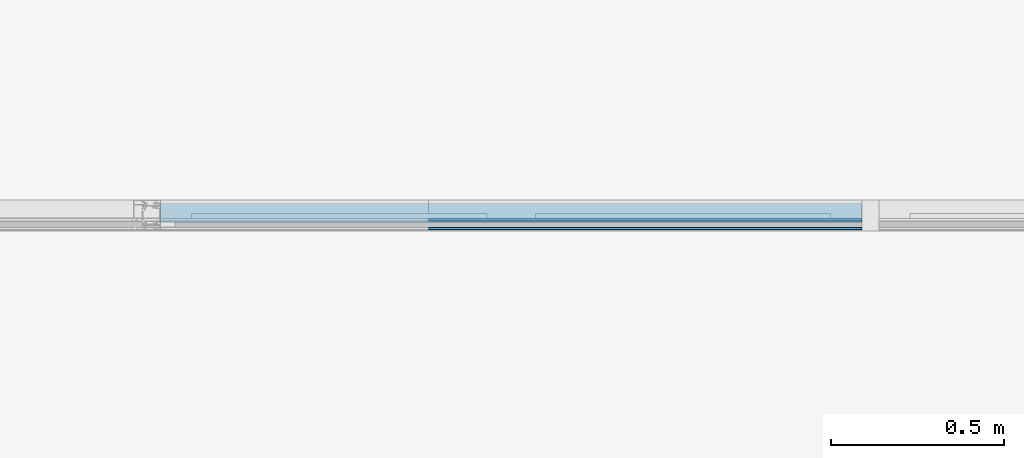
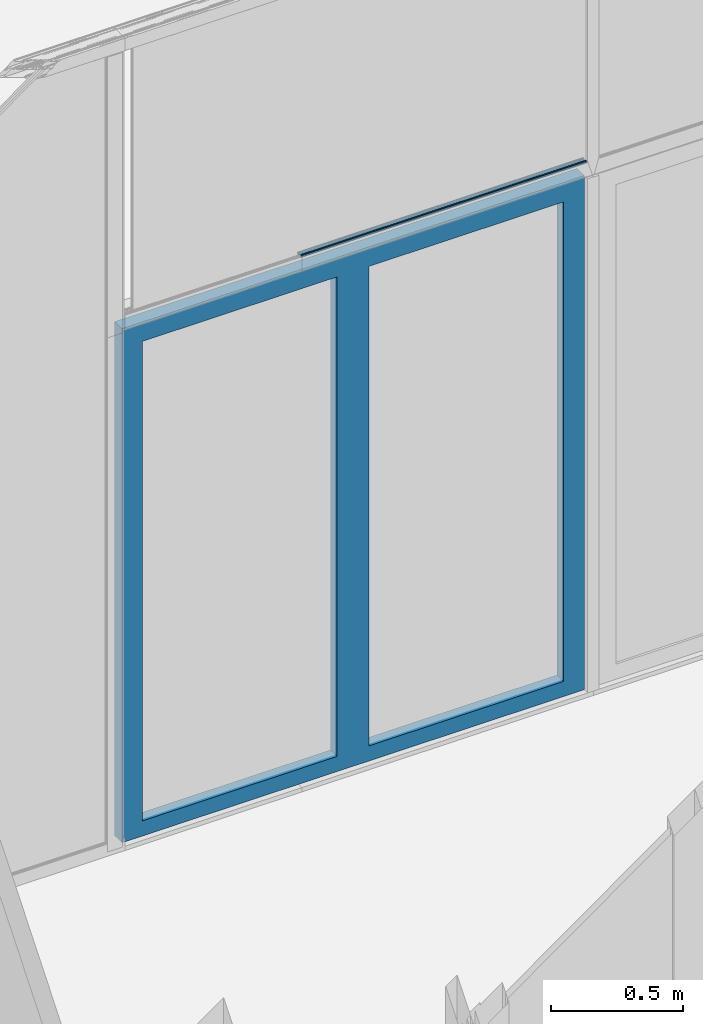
# One storey, part 20 of 69: 2 building element parts, 3 elements without a shape of their own.
"""IFC2X3 building model written with IfcOpenShell, lengths in millimetres."""

from ifc_helpers import new_model, entity, si_unit, converted_unit, derived_unit, money_unit, direction, frame, origin_with_axes, place, context, subcontext, project, spatial, faceted_brep, material, type_object, element, aggregate, save


model = new_model("IFC2X3")

# Units and contexts
model_context = context("Model", 3, precision=0.01, world=origin_with_axes(), true_north=direction((0.0, 1.0)))
body_context = subcontext(model_context, "Body", "Model", "MODEL_VIEW")
ifc_project = project(units=[si_unit("LENGTHUNIT", "METRE", prefix="MILLI"), si_unit("AREAUNIT", "SQUARE_METRE"), si_unit("VOLUMEUNIT", "CUBIC_METRE"), converted_unit("PLANEANGLEUNIT", "DEGREE", entity("IfcPlaneAngleMeasure", 0.0174532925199), si_unit("PLANEANGLEUNIT", "RADIAN"), dimensions=[0, 0, 0, 0, 0, 0, 0]), si_unit("SOLIDANGLEUNIT", "STERADIAN"), money_unit("EUR"), converted_unit("TIMEUNIT", "Year", entity("IfcTimeMeasure", 31556926.0), si_unit("TIMEUNIT", "SECOND"), dimensions=[0, 0, 1, 0, 0, 0, 0]), si_unit("MASSUNIT", "GRAM", prefix="KILO"), si_unit("THERMODYNAMICTEMPERATUREUNIT", "DEGREE_CELSIUS"), si_unit("LUMINOUSINTENSITYUNIT", "LUMEN"), si_unit("ENERGYUNIT", "JOULE", prefix="MEGA"), derived_unit("THERMALCONDUCTANCEUNIT", [(si_unit("POWERUNIT", "WATT"), 1), (si_unit("LENGTHUNIT", "METRE"), -1), (si_unit("THERMODYNAMICTEMPERATUREUNIT", "KELVIN"), -1)]), derived_unit("SPECIFICHEATCAPACITYUNIT", [(si_unit("ENERGYUNIT", "JOULE"), 1), (si_unit("MASSUNIT", "GRAM", prefix="KILO"), -1), (si_unit("THERMODYNAMICTEMPERATUREUNIT", "KELVIN"), -1)]), derived_unit("MASSDENSITYUNIT", [(si_unit("MASSUNIT", "GRAM", prefix="KILO"), 1), (si_unit("VOLUMEUNIT", "CUBIC_METRE"), -1)])], contexts=[model_context])

# Site, building, storey
site_placement = place(None, origin_with_axes())
site = spatial("IfcSite", under=ifc_project, at=site_placement, Name="Puškini 31, Narva", CompositionType="ELEMENT")
building_placement = place(site_placement, origin_with_axes())
building = spatial("IfcBuilding", under=site, at=building_placement, Name="Narva Riigigümnaasium", CompositionType="ELEMENT")
storey_placement = place(building_placement, origin_with_axes())
storey = spatial("IfcBuildingStorey", under=building, at=storey_placement, Name="1.korrus 0.00", CompositionType="ELEMENT", Elevation=0.0)

# Curtain wall, door, building element parts, member
curtain_wall_type = type_object("IfcCurtainWallType", Name="Curtain Wall Type", PredefinedType="NOTDEFINED")
curtain_wall_placement = place(storey_placement, frame((18229.9603698, 152620.000001, -0.397158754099), z_axis=(0.0, 0.0, 1.0), x_axis=(1.0, 0.0, 0.0)))
curtain_wall = element("IfcCurtainWall", 1, at=curtain_wall_placement, inside=storey, type_object=curtain_wall_type, Name="G-KLF-01-1")
door_style = type_object("IfcDoorStyle", Name="1251 x 2339 x 20", ConstructionType="NOTDEFINED", OperationType="NOTDEFINED", ParameterTakesPrecedence=False, Sizeable=False)
door_placement = place(curtain_wall_placement, frame((8.86529960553e-07, 0.0, 1200.00001719), z_axis=(0.0, 0.0, 1.0), x_axis=(1.0, 0.0, 0.0)))
door = element("IfcDoor", 2, at=door_placement, type_object=door_style, Name="G-KLF-01-1-U1", ObjectType="DOOR")
ifc_material_1 = material(Name="ET-04_Alumiinium")
building_element_part_1_placement = place(door_placement, origin_with_axes())
building_element_part_1 = element("IfcBuildingElementPart", 3, at=building_element_part_1_placement, material=ifc_material_1, Name="ET-04_Alumiinium", context=body_context, shape_type="Brep", body=[
    faceted_brep([(-941.130134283, 35.0, -1180.00001691), (-941.130134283, 30.0, -1180.00001691), (-941.130134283, 30.0, 1200.00001719), (-941.130134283, 35.0, 1200.00001719), (-896.130134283, 35.0, -1180.00001691), (-896.130134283, 30.0, -1180.00001691), (-896.130134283, 30.0, 1155.00001719), (-896.130134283, 35.0, 1155.00001719)], [[[0, 1, 2, 3]], [[4, 5, 1, 0]], [[1, 5, 6, 2]], [[3, 2, 6, 7]], [[0, 3, 7, 4]], [[7, 6, 5, 4]]]),
    faceted_brep([(1083.72326716, 35.0, 1200.00001719), (1083.72326716, 30.0, 1200.00001719), (1038.72326716, 30.0, 1155.00001719), (1038.72326716, 35.0, 1155.00001719), (-941.130134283, 35.0, 1200.00001719), (-941.130134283, 30.0, 1200.00001719), (-896.130134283, 30.0, 1155.00001719), (-896.130134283, 35.0, 1155.00001719)], [[[0, 1, 2, 3]], [[4, 5, 1, 0]], [[1, 5, 6, 2]], [[3, 2, 6, 7]], [[0, 3, 7, 4]], [[7, 6, 5, 4]]]),
    faceted_brep([(1083.72326716, 35.0, -1180.00001691), (1083.72326716, 30.0, -1180.00001691), (1038.72326716, 30.0, -1180.00001691), (1038.72326716, 35.0, -1180.00001691), (1083.72326716, 35.0, 1200.00001719), (1083.72326716, 30.0, 1200.00001719), (1038.72326716, 30.0, 1155.00001719), (1038.72326716, 35.0, 1155.00001719)], [[[0, 1, 2, 3]], [[4, 5, 1, 0]], [[1, 5, 6, 2]], [[3, 2, 6, 7]], [[0, 3, 7, 4]], [[7, 6, 5, 4]]]),
    faceted_brep([(-941.130134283, 30.0, -1180.00001691), (-941.130134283, -20.0, -1180.00001691), (-941.130134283, -20.0, 1200.00001719), (-941.130134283, 30.0, 1200.00001719), (-921.130134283, 30.0, -1180.00001691), (-921.130134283, -20.0, -1180.00001691), (-921.130134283, -20.0, 1180.00001719), (-921.130134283, 30.0, 1180.00001719)], [[[0, 1, 2, 3]], [[4, 5, 1, 0]], [[1, 5, 6, 2]], [[3, 2, 6, 7]], [[0, 3, 7, 4]], [[7, 6, 5, 4]]]),
    faceted_brep([(1083.72326716, 30.0, 1200.00001719), (1083.72326716, -20.0, 1200.00001719), (1063.72326716, -20.0, 1180.00001719), (1063.72326716, 30.0, 1180.00001719), (-941.130134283, 30.0, 1200.00001719), (-941.130134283, -20.0, 1200.00001719), (-921.130134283, -20.0, 1180.00001719), (-921.130134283, 30.0, 1180.00001719)], [[[0, 1, 2, 3]], [[4, 5, 1, 0]], [[1, 5, 6, 2]], [[3, 2, 6, 7]], [[0, 3, 7, 4]], [[7, 6, 5, 4]]]),
    faceted_brep([(1083.72326716, 30.0, -1180.00001691), (1083.72326716, -20.0, -1180.00001691), (1063.72326716, -20.0, -1180.00001691), (1063.72326716, 30.0, -1180.00001691), (1083.72326716, 30.0, 1200.00001719), (1083.72326716, -20.0, 1200.00001719), (1063.72326716, -20.0, 1180.00001719), (1063.72326716, 30.0, 1180.00001719)], [[[0, 1, 2, 3]], [[4, 5, 1, 0]], [[1, 5, 6, 2]], [[3, 2, 6, 7]], [[0, 3, 7, 4]], [[7, 6, 5, 4]]]),
    faceted_brep([(-941.130134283, 10.0, -1180.00001691), (-941.130134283, -9.99999999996, -1180.00001691), (-941.130134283, -9.99999999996, 1200.00001719), (-941.130134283, 10.0, 1200.00001719), (-899.947743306, 10.0, -1180.00001691), (-899.947743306, -9.99999999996, -1180.00001691), (-899.947743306, -9.99999999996, 1158.81762622), (-899.947743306, 10.0, 1158.81762622)], [[[0, 1, 2, 3]], [[4, 5, 1, 0]], [[1, 5, 6, 2]], [[3, 2, 6, 7]], [[0, 3, 7, 4]], [[7, 6, 5, 4]]]),
    faceted_brep([(-941.130134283, 10.0, 1200.00001719), (-941.130134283, -9.99999999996, 1200.00001719), (1083.72326716, -9.99999999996, 1200.00001719), (1083.72326716, 10.0, 1200.00001719), (-899.947743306, 10.0, 1158.81762622), (-899.947743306, -9.99999999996, 1158.81762622), (1083.72326716, -9.99999999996, 1158.81762622), (1083.72326716, 10.0, 1158.81762622)], [[[0, 1, 2, 3]], [[4, 5, 1, 0]], [[1, 5, 6, 2]], [[3, 2, 6, 7]], [[0, 3, 7, 4]], [[7, 6, 5, 4]]]),
    faceted_brep([(993.723267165, 30.0, -1110.00001691), (993.723267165, -20.0, -1110.00001691), (993.723267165, -20.0, 1110.00001719), (993.723267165, 30.0, 1110.00001719), (1063.72326716, 30.0, -1180.00001691), (1063.72326716, -20.0, -1180.00001691), (1063.72326716, -20.0, 1180.00001719), (1063.72326716, 30.0, 1180.00001719)], [[[0, 1, 2, 3]], [[4, 5, 1, 0]], [[1, 5, 6, 2]], [[3, 2, 6, 7]], [[0, 3, 7, 4]], [[7, 6, 5, 4]]]),
    faceted_brep([(71.296566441, 30.0, -1180.00001691), (71.296566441, -20.0, -1180.00001691), (71.296566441, -20.0, 1180.00001719), (71.296566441, 30.0, 1180.00001719), (141.296566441, 30.0, -1110.00001691), (141.296566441, -20.0, -1110.00001691), (141.296566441, -20.0, 1110.00001719), (141.296566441, 30.0, 1110.00001719)], [[[0, 1, 2, 3]], [[4, 5, 1, 0]], [[1, 5, 6, 2]], [[3, 2, 6, 7]], [[0, 3, 7, 4]], [[7, 6, 5, 4]]]),
    faceted_brep([(71.296566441, 30.0, -1180.00001691), (71.296566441, -20.0, -1180.00001691), (141.296566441, -20.0, -1110.00001691), (141.296566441, 30.0, -1110.00001691), (1063.72326716, 30.0, -1180.00001691), (1063.72326716, -20.0, -1180.00001691), (993.723267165, -20.0, -1110.00001691), (993.723267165, 30.0, -1110.00001691)], [[[0, 1, 2, 3]], [[4, 5, 1, 0]], [[1, 5, 6, 2]], [[3, 2, 6, 7]], [[0, 3, 7, 4]], [[7, 6, 5, 4]]]),
    faceted_brep([(1063.72326716, 30.0, 1180.00001719), (1063.72326716, -20.0, 1180.00001719), (993.723267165, -20.0, 1110.00001719), (993.723267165, 30.0, 1110.00001719), (71.296566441, 30.0, 1180.00001719), (71.296566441, -20.0, 1180.00001719), (141.296566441, -20.0, 1110.00001719), (141.296566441, 30.0, 1110.00001719)], [[[0, 1, 2, 3]], [[4, 5, 1, 0]], [[1, 5, 6, 2]], [[3, 2, 6, 7]], [[0, 3, 7, 4]], [[7, 6, 5, 4]]]),
    faceted_brep([(1.296566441, 30.0, -1110.00001691), (1.296566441, -20.0, -1110.00001691), (1.296566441, -20.0, 1110.00001719), (1.296566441, 30.0, 1110.00001719), (71.296566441, 30.0, -1180.00001691), (71.296566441, -20.0, -1180.00001691), (71.296566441, -20.0, 1180.00001719), (71.296566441, 30.0, 1180.00001719)], [[[0, 1, 2, 3]], [[4, 5, 1, 0]], [[1, 5, 6, 2]], [[3, 2, 6, 7]], [[0, 3, 7, 4]], [[7, 6, 5, 4]]]),
    faceted_brep([(-921.130134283, 30.0, -1180.00001691), (-921.130134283, -20.0, -1180.00001691), (-921.130134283, -20.0, 1180.00001719), (-921.130134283, 30.0, 1180.00001719), (-851.130134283, 30.0, -1110.00001691), (-851.130134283, -20.0, -1110.00001691), (-851.130134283, -20.0, 1110.00001719), (-851.130134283, 30.0, 1110.00001719)], [[[0, 1, 2, 3]], [[4, 5, 1, 0]], [[1, 5, 6, 2]], [[3, 2, 6, 7]], [[0, 3, 7, 4]], [[7, 6, 5, 4]]]),
    faceted_brep([(-921.130134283, 30.0, -1180.00001691), (-921.130134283, -20.0, -1180.00001691), (-851.130134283, -20.0, -1110.00001691), (-851.130134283, 30.0, -1110.00001691), (71.296566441, 30.0, -1180.00001691), (71.296566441, -20.0, -1180.00001691), (1.296566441, -20.0, -1110.00001691), (1.296566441, 30.0, -1110.00001691)], [[[0, 1, 2, 3]], [[4, 5, 1, 0]], [[1, 5, 6, 2]], [[3, 2, 6, 7]], [[0, 3, 7, 4]], [[7, 6, 5, 4]]]),
    faceted_brep([(71.296566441, 30.0, 1180.00001719), (71.296566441, -20.0, 1180.00001719), (1.296566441, -20.0, 1110.00001719), (1.296566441, 30.0, 1110.00001719), (-921.130134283, 30.0, 1180.00001719), (-921.130134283, -20.0, 1180.00001719), (-851.130134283, -20.0, 1110.00001719), (-851.130134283, 30.0, 1110.00001719)], [[[0, 1, 2, 3]], [[4, 5, 1, 0]], [[1, 5, 6, 2]], [[3, 2, 6, 7]], [[0, 3, 7, 4]], [[7, 6, 5, 4]]]),
])
aggregate(door, [building_element_part_1])
member_type = type_object("IfcMemberType", Name="82 x 35", PredefinedType="MULLION")
member_placement = place(curtain_wall_placement, frame((1108.72326841, 0.0, 2400.00003439), z_axis=(-1.0, 0.0, 0.0), x_axis=(0.0, 0.0, 1.0)))
member = element("IfcMember", 4, at=member_placement, type_object=member_type, Name="G-SKLF-01-raam", ObjectType="MULLION")
aggregate(curtain_wall, [door, member])
ifc_material_2 = material(Name="Membraan - Veekindel")
building_element_part_2_placement = place(member_placement, origin_with_axes())
building_element_part_2 = element("IfcBuildingElementPart", 5, at=building_element_part_2_placement, material=ifc_material_2, Name="Membraan - Veekindel", context=body_context, shape_type="Brep", body=[
    faceted_brep([(72.7204882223, -15.0100099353, 22.0726910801), (74.9898926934, -16.6230552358, 22.7615184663), (74.9898926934, -16.6230552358, 1276.31640089), (72.7204882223, -15.0100099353, 1276.31640089), (72.5011668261, -14.8999349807, 22.0061209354), (72.2558878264, -14.9074571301, 21.9316719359), (72.0437237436, -15.0307647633, 21.8672742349), (71.7536994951, -15.2121692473, 21.7792438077), (67.4982927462, -16.7341218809, 20.4876094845), (67.0740702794, -16.7580150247, 20.358846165), (66.7049453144, -16.5475813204, 20.24680647), (66.5093924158, -16.1703616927, 20.1874507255), (66.5501763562, -15.7474287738, 20.1998297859), (66.8142070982, -15.4145273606, 20.2799704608), (73.0645590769, -8.68581760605, 22.1771261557), (73.192689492, -8.61180126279, 22.216017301), (73.3406152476, -8.60808734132, 22.2609168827), (73.4722984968, -8.67558063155, 22.3008864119), (73.5556584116, -8.79783833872, 22.326188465), (73.9761212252, -9.95305042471, 22.4538106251), (74.0859560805, -10.096189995, 22.487148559), (74.2580290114, -10.1504443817, 22.5393774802), (76.3123574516, -10.1504443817, 23.1629233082), (76.4731258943, -10.1037298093, 23.2117210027), (76.5838261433, -9.97813443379, 23.2453216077), (76.6099827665, -9.81277248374, 23.2532608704), (76.4957458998, -8.91024871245, 23.2185868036), (76.5142922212, -8.76250903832, 23.2242161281), (76.601588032, -8.64188392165, 23.250712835), (76.7361285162, -8.57808865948, 23.2915496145), (78.1361285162, -8.30595622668, 23.7164885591), (78.2917480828, -8.3170330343, 23.7637234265), (78.4207620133, -8.40475732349, 23.8028827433), (78.4882789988, -8.54540440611, 23.8233760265), (78.7418652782, -10.0036443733, 23.9003465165), (80.5405112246, -15.001346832, 24.4462855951), (80.7012805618, -15.6006926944, 24.4950835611), (80.5411647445, -16.2002134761, 24.4464839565), (80.1029794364, -16.6395947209, 24.3134825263), (79.5038972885, -16.8013439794, 24.1316444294), (77.1927259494, -16.806401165, 23.4301396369), (77.1927259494, -16.806401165, 1276.31640089), (79.5038972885, -16.8013439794, 1276.31640089), (80.1029794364, -16.6395947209, 1276.31640089), (80.5411647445, -16.2002134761, 1276.31640089), (80.7012805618, -15.6006926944, 1276.31640089), (80.5405112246, -15.001346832, 1276.31640089), (78.7418652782, -10.0036443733, 1276.31640089), (78.4882789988, -8.54540440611, 1276.31640089), (78.4207620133, -8.40475732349, 1276.31640089), (78.2917480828, -8.3170330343, 1276.31640089), (78.1361285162, -8.30595622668, 1276.31640089), (76.7361285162, -8.57808865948, 1276.31640089), (76.601588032, -8.64188392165, 1276.31640089), (76.5142922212, -8.76250903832, 1276.31640089), (76.4957458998, -8.91024871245, 1276.31640089), (76.6099827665, -9.81277248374, 1276.31640089), (76.5838261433, -9.97813443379, 1276.31640089), (76.4731258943, -10.1037298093, 1276.31640089), (76.3123574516, -10.1504443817, 1276.31640089), (74.2580290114, -10.1504443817, 1276.31640089), (74.0859560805, -10.096189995, 1276.31640089), (73.9761212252, -9.95305042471, 1276.31640089), (73.5556584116, -8.79783833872, 1276.31640089), (73.4722984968, -8.67558063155, 1276.31640089), (73.3406152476, -8.60808734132, 1276.31640089), (73.192689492, -8.61180126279, 1276.31640089), (73.0645590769, -8.68581760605, 1276.31640089), (66.8142070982, -15.4145273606, 1276.31640089), (66.5501763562, -15.7474287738, 1276.31640089), (66.5093924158, -16.1703616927, 1276.31640089), (66.7049453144, -16.5475813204, 1276.31640089), (67.0740702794, -16.7580150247, 1276.31640089), (67.4982927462, -16.7341218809, 1276.31640089), (71.7536994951, -15.2121692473, 1276.31640089), (72.0437237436, -15.0307647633, 1276.31640089), (72.2558878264, -14.9074571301, 1276.31640089), (72.5011668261, -14.8999349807, 1276.31640089)], [[[0, 1, 2, 3]], [[1, 0, 4, 5, 6, 7, 8, 9, 10, 11, 12, 13, 14, 15, 16, 17, 18, 19, 20, 21, 22, 23, 24, 25, 26, 27, 28, 29, 30, 31, 32, 33, 34, 35, 36, 37, 38, 39, 40]], [[1, 40, 41, 2]], [[2, 41, 42, 43, 44, 45, 46, 47, 48, 49, 50, 51, 52, 53, 54, 55, 56, 57, 58, 59, 60, 61, 62, 63, 64, 65, 66, 67, 68, 69, 70, 71, 72, 73, 74, 75, 76, 77, 3]], [[4, 0, 3, 77]], [[5, 4, 77, 76]], [[6, 5, 76, 75]], [[7, 6, 75, 74]], [[8, 7, 74, 73]], [[9, 8, 73, 72]], [[10, 9, 72, 71]], [[11, 10, 71, 70]], [[12, 11, 70, 69]], [[13, 12, 69, 68]], [[14, 13, 68, 67]], [[15, 14, 67, 66]], [[16, 15, 66, 65]], [[17, 16, 65, 64]], [[18, 17, 64, 63]], [[19, 18, 63, 62]], [[20, 19, 62, 61]], [[21, 20, 61, 60]], [[22, 21, 60, 59]], [[23, 22, 59, 58]], [[24, 23, 58, 57]], [[25, 24, 57, 56]], [[26, 25, 56, 55]], [[27, 26, 55, 54]], [[28, 27, 54, 53]], [[29, 28, 53, 52]], [[30, 29, 52, 51]], [[31, 30, 51, 50]], [[32, 31, 50, 49]], [[33, 32, 49, 48]], [[34, 33, 48, 47]], [[35, 34, 47, 46]], [[36, 35, 46, 45]], [[37, 36, 45, 44]], [[38, 37, 44, 43]], [[39, 38, 43, 42]], [[40, 39, 42, 41]]]),
    faceted_brep([(71.6876987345, -41.3119145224, 21.7592107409), (72.8904310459, -42.4618935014, 22.1242734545), (72.8904310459, -42.4618935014, 1276.31640089), (71.6876987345, -41.3119145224, 1276.31640089), (71.6057623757, -41.1582990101, 21.7343407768), (71.6229356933, -40.9850466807, 21.7395533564), (71.7334350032, -40.8505059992, 21.7730929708), (71.900046, -40.799988, 21.823664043), (72.00004, -40.799988, 21.8540150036), (72.15004, -40.7597956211, 21.8995441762), (72.2598476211, -40.649988, 21.9328738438), (72.30004, -40.499988, 21.9450733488), (72.30004, -39.200012, 21.9450733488), (71.30004, -39.2000007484, 21.6415455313), (69.2000038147, -39.2000007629, 21.0041261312), (69.0500179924, -39.159812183, 20.9586012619), (68.9402207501, -39.0500149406, 20.9252747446), (68.9000321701, -38.9000291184, 20.9130763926), (68.8997554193, -34.9006000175, 20.9129923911), (69.647137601, -33.7902637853, 21.1398436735), (82.2108941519, -33.7902637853, 24.9532932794), (82.3423779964, -33.9722990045, 24.9932022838), (82.3536959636, -34.1965683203, 24.9966376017), (82.2412066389, -34.3909158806, 24.9624939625), (82.041102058, -34.4928127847, 24.9017566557), (80.7800222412, -34.7379988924, 24.5189838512), (79.6755028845, -35.3629012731, 24.1837315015), (79.1693613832, -36.5266395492, 24.0301034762), (78.9000324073, -39.6000097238, 23.94835464), (78.8464370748, -39.8000230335, 23.9320869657), (78.7000161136, -39.9464425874, 23.8876441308), (78.5000022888, -40.0000359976, 23.8269343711), (78.5000022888, -39.2000007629, 23.8269343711), (76.5000210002, -39.200012, 23.2198844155), (75.500021, -39.200012, 22.9163565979), (75.500021, -40.499988, 22.9163565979), (75.800021, -40.799988, 23.0074149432), (75.9000173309, -40.799988, 23.0377666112), (76.0666568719, -40.8505228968, 23.0883463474), (76.1771585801, -40.9851032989, 23.1218866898), (76.1942964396, -41.1583915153, 23.1270885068), (76.1122970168, -41.3120098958, 23.102199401), (75.0716106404, -42.353428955, 22.7863221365), (74.9093558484, -42.461906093, 22.7370732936), (74.717932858, -42.5, 22.6789710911), (73.0818844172, -42.5, 22.1823848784), (73.0818844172, -42.5, 1276.31640089), (74.717932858, -42.5, 1276.31640089), (74.9093558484, -42.461906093, 1276.31640089), (75.0716106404, -42.353428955, 1276.31640089), (76.1122970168, -41.3120098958, 1276.31640089), (76.1942964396, -41.1583915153, 1276.31640089), (76.1771585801, -40.9851032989, 1276.31640089), (76.0666568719, -40.8505228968, 1276.31640089), (75.9000173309, -40.799988, 1276.31640089), (75.800021, -40.799988, 1276.31640089), (75.500021, -40.499988, 1276.31640089), (75.500021, -39.200012, 1276.31640089), (76.5000210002, -39.200012, 1276.31640089), (78.5000022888, -39.2000007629, 1276.31640089), (78.5000022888, -40.0000359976, 1276.31640089), (78.7000161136, -39.9464425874, 1276.31640089), (78.8464370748, -39.8000230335, 1276.31640089), (78.9000324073, -39.6000097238, 1276.31640089), (79.1693613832, -36.5266395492, 1276.31640089), (79.6755028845, -35.3629012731, 1276.31640089), (80.7800222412, -34.7379988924, 1276.31640089), (82.041102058, -34.4928127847, 1276.31640089), (82.2412066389, -34.3909158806, 1276.31640089), (82.3536959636, -34.1965683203, 1276.31640089), (82.3423779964, -33.9722990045, 1276.31640089), (82.2108941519, -33.7902637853, 1276.31640089), (69.647137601, -33.7902637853, 1276.31640089), (68.8997554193, -34.9006000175, 1276.31640089), (68.9000321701, -38.9000291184, 1276.31640089), (68.9402207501, -39.0500149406, 1276.31640089), (69.0500179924, -39.159812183, 1276.31640089), (69.2000038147, -39.2000007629, 1276.31640089), (71.30004, -39.2000007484, 1276.31640089), (72.30004, -39.200012, 1276.31640089), (72.30004, -40.499988, 1276.31640089), (72.2598476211, -40.649988, 1276.31640089), (72.15004, -40.7597956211, 1276.31640089), (72.00004, -40.799988, 1276.31640089), (71.900046, -40.799988, 1276.31640089), (71.7334350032, -40.8505059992, 1276.31640089), (71.6229356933, -40.9850466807, 1276.31640089), (71.6057623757, -41.1582990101, 1276.31640089)], [[[0, 1, 2, 3]], [[1, 0, 4, 5, 6, 7, 8, 9, 10, 11, 12, 13, 14, 15, 16, 17, 18, 19, 20, 21, 22, 23, 24, 25, 26, 27, 28, 29, 30, 31, 32, 33, 34, 35, 36, 37, 38, 39, 40, 41, 42, 43, 44, 45]], [[1, 45, 46, 2]], [[2, 46, 47, 48, 49, 50, 51, 52, 53, 54, 55, 56, 57, 58, 59, 60, 61, 62, 63, 64, 65, 66, 67, 68, 69, 70, 71, 72, 73, 74, 75, 76, 77, 78, 79, 80, 81, 82, 83, 84, 85, 86, 87, 3]], [[4, 0, 3, 87]], [[5, 4, 87, 86]], [[6, 5, 86, 85]], [[7, 6, 85, 84]], [[8, 7, 84, 83]], [[9, 8, 83, 82]], [[10, 9, 82, 81]], [[11, 10, 81, 80]], [[12, 11, 80, 79]], [[13, 12, 79, 78]], [[14, 13, 78, 77]], [[15, 14, 77, 76]], [[16, 15, 76, 75]], [[17, 16, 75, 74]], [[18, 17, 74, 73]], [[19, 18, 73, 72]], [[20, 19, 72, 71]], [[21, 20, 71, 70]], [[22, 21, 70, 69]], [[23, 22, 69, 68]], [[24, 23, 68, 67]], [[25, 24, 67, 66]], [[26, 25, 66, 65]], [[27, 26, 65, 64]], [[28, 27, 64, 63]], [[29, 28, 63, 62]], [[30, 29, 62, 61]], [[31, 30, 61, 60]], [[32, 31, 60, 59]], [[33, 32, 59, 58]], [[34, 33, 58, 57]], [[35, 34, 57, 56]], [[36, 35, 56, 55]], [[37, 36, 55, 54]], [[38, 37, 54, 53]], [[39, 38, 53, 52]], [[40, 39, 52, 51]], [[41, 40, 51, 50]], [[42, 41, 50, 49]], [[43, 42, 49, 48]], [[44, 43, 48, 47]], [[45, 44, 47, 46]]]),
])
aggregate(member, [building_element_part_2])

save(model, "model.ifc")
